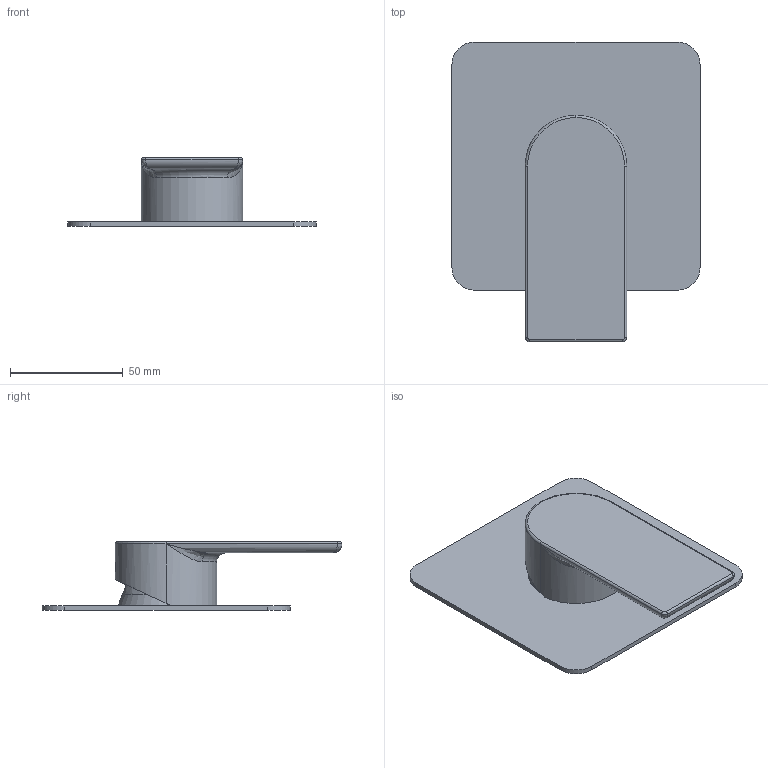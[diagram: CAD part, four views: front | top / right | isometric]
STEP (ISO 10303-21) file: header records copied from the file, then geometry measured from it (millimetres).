
FILE_DESCRIPTION (( 'STEP AP214' ), '1' );
FILE_NAME ('80223310 x architetti.STEP', '2025-03-05T11:15:17', ( '' ), ( '' ), 'SwSTEP 2.0', 'SolidWorks 2020', '' );
FILE_SCHEMA (( 'AUTOMOTIVE_DESIGN' ));
Length unit declared in the file: millimetre
Products named in the file (1): 80223310 x architetti
Bounding box: 110 x 133 x 30.5 mm (x, y, z)
Volume: 70566.2 mm3; surface area: 42941.3 mm2
Topology: 1 solids, 2 shells, 58 faces, 139 edges, 82 vertices
Faces by surface type: cylinder 24, plane 12, cone 7, bspline 6, torus 5, sphere 4
Entity records: 2956 total; most frequent: CARTESIAN_POINT 1033, DIRECTION 283, ORIENTED_EDGE 270, EDGE_CURVE 135, AXIS2_PLACEMENT_3D 118, VERTEX_POINT 82, CIRCLE 65, EDGE_LOOP 65
